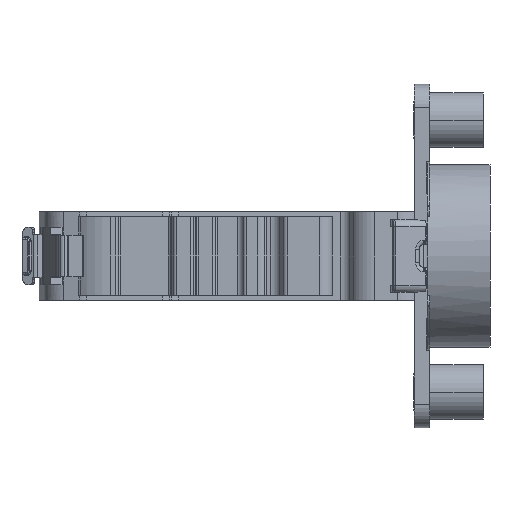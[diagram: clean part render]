
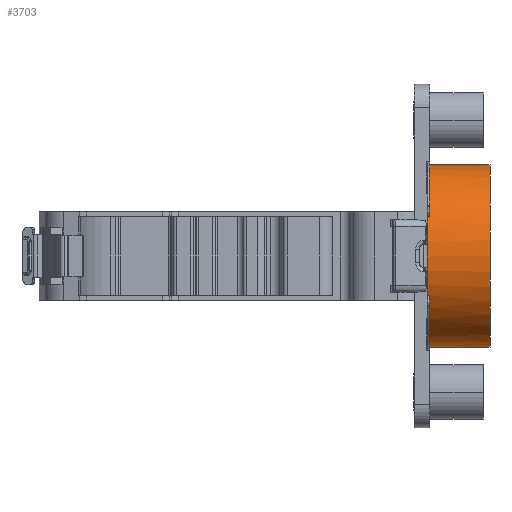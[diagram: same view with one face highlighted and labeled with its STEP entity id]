
A CAD part, front view. The second image highlights one B-rep face of the part: STEP entity #3703.
In plain terms, the highlighted cylindrical face has radius 17.4 mm (diameter 34.8 mm), a partial arc.
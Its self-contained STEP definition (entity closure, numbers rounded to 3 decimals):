
#29 = ORIENTED_EDGE ( 'NONE', *, *, #7112, .T. ) ;
#253 = CARTESIAN_POINT ( 'NONE',  ( 1.013, -10.049, -7.81 ) ) ;
#467 = ORIENTED_EDGE ( 'NONE', *, *, #8401, .F. ) ;
#533 = CARTESIAN_POINT ( 'NONE',  ( 1.5, 5.5, 17.4 ) ) ;
#634 = VERTEX_POINT ( 'NONE', #12670 ) ;
#758 = EDGE_CURVE ( 'NONE', #7445, #12216, #1625, .T. ) ;
#763 = CIRCLE ( 'NONE', #7394, 17.4 ) ;
#805 = CARTESIAN_POINT ( 'NONE',  ( 1.5, 5.5, -17.4 ) ) ;
#852 = DIRECTION ( 'NONE',  ( -1., 0., 0. ) ) ;
#1073 = CARTESIAN_POINT ( 'NONE',  ( 1.015, -10.061, 7.787 ) ) ;
#1083 = EDGE_CURVE ( 'NONE', #634, #7445, #12830, .T. ) ;
#1140 = CARTESIAN_POINT ( 'NONE',  ( 1.021, -10.091, 7.725 ) ) ;
#1463 = CARTESIAN_POINT ( 'NONE',  ( 1.032, -10.142, -7.622 ) ) ;
#1535 = EDGE_CURVE ( 'NONE', #9238, #8786, #3663, .T. ) ;
#1569 = DIRECTION ( 'NONE',  ( -1., 0., 0. ) ) ;
#1625 = LINE ( 'NONE', #8893, #1801 ) ;
#1801 = VECTOR ( 'NONE', #2723, 1000. ) ;
#2023 = CARTESIAN_POINT ( 'NONE',  ( 1.047, -10.2, 7.5 ) ) ;
#2112 = CARTESIAN_POINT ( 'NONE',  ( 13., 5.5, -17.4 ) ) ;
#2351 = CARTESIAN_POINT ( 'NONE',  ( 1.01, -10.032, -7.843 ) ) ;
#2494 = CARTESIAN_POINT ( 'NONE',  ( 1., -9.928, -8.046 ) ) ;
#2723 = DIRECTION ( 'NONE',  ( 1., 0., 0. ) ) ;
#2961 = DIRECTION ( 'NONE',  ( 0., 0., 1. ) ) ;
#3106 = CARTESIAN_POINT ( 'NONE',  ( 1.033, -10.145, 7.616 ) ) ;
#3150 = ORIENTED_EDGE ( 'NONE', *, *, #758, .T. ) ;
#3292 = CARTESIAN_POINT ( 'NONE',  ( 1., -9.905, -8.09 ) ) ;
#3567 = VERTEX_POINT ( 'NONE', #12045 ) ;
#3608 = DIRECTION ( 'NONE',  ( 0., 0., 1. ) ) ;
#3663 = B_SPLINE_CURVE_WITH_KNOTS ( 'NONE', 3,
 ( #2023, #6226, #3106, #7369, #1140, #11452, #9294, #1073, #8279, #9219, #6085, #4226 ),
 .UNSPECIFIED., .F., .F.,
 ( 4, 2, 1, 1, 2, 2, 4 ),
 ( 0., 0.25, 0.375, 0.438, 0.469, 0.5, 1. ),
 .UNSPECIFIED. ) ;
#3703 = ADVANCED_FACE ( 'NONE', ( #10966 ), #5872, .T. ) ;
#3956 = CARTESIAN_POINT ( 'NONE',  ( 1.5, 5.5, 0. ) ) ;
#4065 = EDGE_CURVE ( 'NONE', #5814, #12216, #7769, .T. ) ;
#4226 = CARTESIAN_POINT ( 'NONE',  ( 1., -9.905, 8.09 ) ) ;
#4539 = VECTOR ( 'NONE', #852, 1000. ) ;
#4760 = LINE ( 'NONE', #5825, #6757 ) ;
#4827 = CARTESIAN_POINT ( 'NONE',  ( 13., 5.5, 17.4 ) ) ;
#4834 = EDGE_CURVE ( 'NONE', #4898, #9238, #12236, .T. ) ;
#4869 = EDGE_CURVE ( 'NONE', #4898, #8962, #11657, .T. ) ;
#4898 = VERTEX_POINT ( 'NONE', #13239 ) ;
#4983 = DIRECTION ( 'NONE',  ( 0., 0., 1. ) ) ;
#5113 = CARTESIAN_POINT ( 'NONE',  ( 1.5, 5.5, 0. ) ) ;
#5191 = AXIS2_PLACEMENT_3D ( 'NONE', #3956, #7876, #2961 ) ;
#5239 = CARTESIAN_POINT ( 'NONE',  ( 13., 5.5, 0. ) ) ;
#5355 = ORIENTED_EDGE ( 'NONE', *, *, #5567, .F. ) ;
#5567 = EDGE_CURVE ( 'NONE', #3567, #9581, #7241, .T. ) ;
#5603 = AXIS2_PLACEMENT_3D ( 'NONE', #5113, #7007, #4983 ) ;
#5777 = ORIENTED_EDGE ( 'NONE', *, *, #1535, .T. ) ;
#5814 = VERTEX_POINT ( 'NONE', #805 ) ;
#5825 = CARTESIAN_POINT ( 'NONE',  ( 13., 5.5, -17.4 ) ) ;
#5872 = CYLINDRICAL_SURFACE ( 'NONE', #9029, 17.4 ) ;
#6056 = CARTESIAN_POINT ( 'NONE',  ( 7., -10.201, 7.5 ) ) ;
#6085 = CARTESIAN_POINT ( 'NONE',  ( 1., -9.951, 8.001 ) ) ;
#6226 = CARTESIAN_POINT ( 'NONE',  ( 1.04, -10.171, 7.561 ) ) ;
#6529 = CARTESIAN_POINT ( 'NONE',  ( 1.007, -10.009, -7.888 ) ) ;
#6757 = VECTOR ( 'NONE', #12762, 1000. ) ;
#7007 = DIRECTION ( 'NONE',  ( -1., 0., 0. ) ) ;
#7112 = EDGE_CURVE ( 'NONE', #8786, #634, #763, .T. ) ;
#7241 = CIRCLE ( 'NONE', #8283, 17.4 ) ;
#7243 = CARTESIAN_POINT ( 'NONE',  ( 13., 5.5, 0. ) ) ;
#7369 = CARTESIAN_POINT ( 'NONE',  ( 1.025, -10.109, 7.69 ) ) ;
#7394 = AXIS2_PLACEMENT_3D ( 'NONE', #10722, #9651, #10579 ) ;
#7445 = VERTEX_POINT ( 'NONE', #11451 ) ;
#7769 = CIRCLE ( 'NONE', #5191, 17.4 ) ;
#7876 = DIRECTION ( 'NONE',  ( -1., 0., 0. ) ) ;
#8018 = VECTOR ( 'NONE', #1569, 1000. ) ;
#8279 = CARTESIAN_POINT ( 'NONE',  ( 1.015, -10.059, 7.789 ) ) ;
#8283 = AXIS2_PLACEMENT_3D ( 'NONE', #7243, #10711, #12663 ) ;
#8396 = CARTESIAN_POINT ( 'NONE',  ( 1.021, -10.094, -7.72 ) ) ;
#8401 = EDGE_CURVE ( 'NONE', #9581, #5814, #4760, .T. ) ;
#8442 = EDGE_CURVE ( 'NONE', #3567, #8962, #12831, .T. ) ;
#8786 = VERTEX_POINT ( 'NONE', #9157 ) ;
#8893 = CARTESIAN_POINT ( 'NONE',  ( 7., -10.201, -7.5 ) ) ;
#8962 = VERTEX_POINT ( 'NONE', #533 ) ;
#9029 = AXIS2_PLACEMENT_3D ( 'NONE', #5239, #9333, #3608 ) ;
#9157 = CARTESIAN_POINT ( 'NONE',  ( 1., -9.905, 8.09 ) ) ;
#9180 = ORIENTED_EDGE ( 'NONE', *, *, #1083, .T. ) ;
#9219 = CARTESIAN_POINT ( 'NONE',  ( 1.005, -10.002, 7.904 ) ) ;
#9238 = VERTEX_POINT ( 'NONE', #9274 ) ;
#9274 = CARTESIAN_POINT ( 'NONE',  ( 1.047, -10.2, 7.5 ) ) ;
#9294 = CARTESIAN_POINT ( 'NONE',  ( 1.016, -10.065, 7.777 ) ) ;
#9333 = DIRECTION ( 'NONE',  ( -1., 0., 0. ) ) ;
#9417 = CARTESIAN_POINT ( 'NONE',  ( 1.002, -9.965, -7.976 ) ) ;
#9581 = VERTEX_POINT ( 'NONE', #2112 ) ;
#9651 = DIRECTION ( 'NONE',  ( 1., 0., 0. ) ) ;
#9778 = ORIENTED_EDGE ( 'NONE', *, *, #4869, .F. ) ;
#9835 = CARTESIAN_POINT ( 'NONE',  ( 1.5, -10.201, -7.5 ) ) ;
#10334 = EDGE_LOOP ( 'NONE', ( #467, #5355, #10922, #9778, #13105, #5777, #29, #9180, #3150, #11442 ) ) ;
#10579 = DIRECTION ( 'NONE',  ( 0., 0., 1. ) ) ;
#10615 = CARTESIAN_POINT ( 'NONE',  ( 1.012, -10.042, -7.823 ) ) ;
#10711 = DIRECTION ( 'NONE',  ( 1., 0., 0. ) ) ;
#10722 = CARTESIAN_POINT ( 'NONE',  ( 1., 5.5, 0. ) ) ;
#10922 = ORIENTED_EDGE ( 'NONE', *, *, #8442, .T. ) ;
#10966 = FACE_OUTER_BOUND ( 'NONE', #10334, .T. ) ;
#11442 = ORIENTED_EDGE ( 'NONE', *, *, #4065, .F. ) ;
#11451 = CARTESIAN_POINT ( 'NONE',  ( 1.047, -10.2, -7.5 ) ) ;
#11452 = CARTESIAN_POINT ( 'NONE',  ( 1.017, -10.073, 7.762 ) ) ;
#11657 = CIRCLE ( 'NONE', #5603, 17.4 ) ;
#12045 = CARTESIAN_POINT ( 'NONE',  ( 13., 5.5, 17.4 ) ) ;
#12216 = VERTEX_POINT ( 'NONE', #9835 ) ;
#12236 = LINE ( 'NONE', #6056, #4539 ) ;
#12514 = CARTESIAN_POINT ( 'NONE',  ( 1.047, -10.2, -7.5 ) ) ;
#12582 = CARTESIAN_POINT ( 'NONE',  ( 1.014, -10.053, -7.801 ) ) ;
#12663 = DIRECTION ( 'NONE',  ( 0., 0., -1. ) ) ;
#12670 = CARTESIAN_POINT ( 'NONE',  ( 1., -9.905, -8.09 ) ) ;
#12762 = DIRECTION ( 'NONE',  ( -1., 0., 0. ) ) ;
#12830 = B_SPLINE_CURVE_WITH_KNOTS ( 'NONE', 3,
 ( #3292, #2494, #9417, #6529, #2351, #10615, #253, #12582, #8396, #1463, #12514 ),
 .UNSPECIFIED., .F., .F.,
 ( 4, 1, 1, 1, 2, 2, 4 ),
 ( 0., 0.25, 0.375, 0.437, 0.469, 0.5, 1. ),
 .UNSPECIFIED. ) ;
#12831 = LINE ( 'NONE', #4827, #8018 ) ;
#13105 = ORIENTED_EDGE ( 'NONE', *, *, #4834, .T. ) ;
#13239 = CARTESIAN_POINT ( 'NONE',  ( 1.5, -10.201, 7.5 ) ) ;
